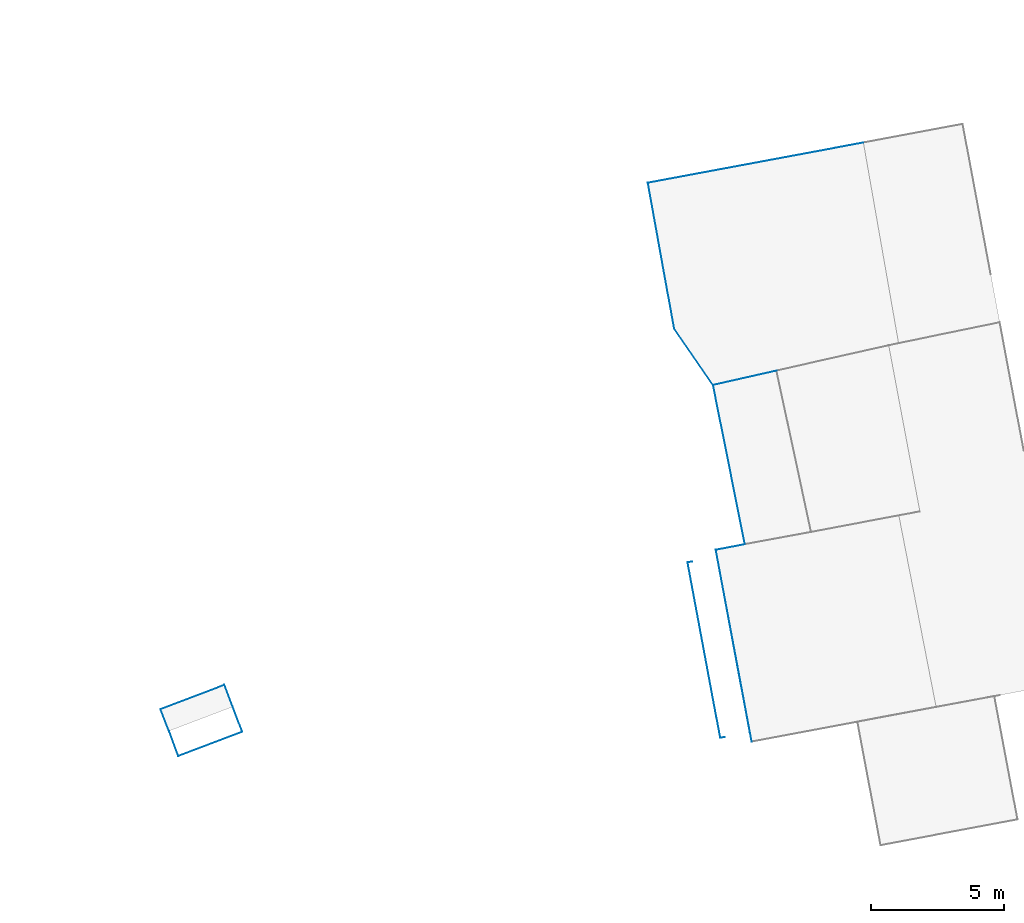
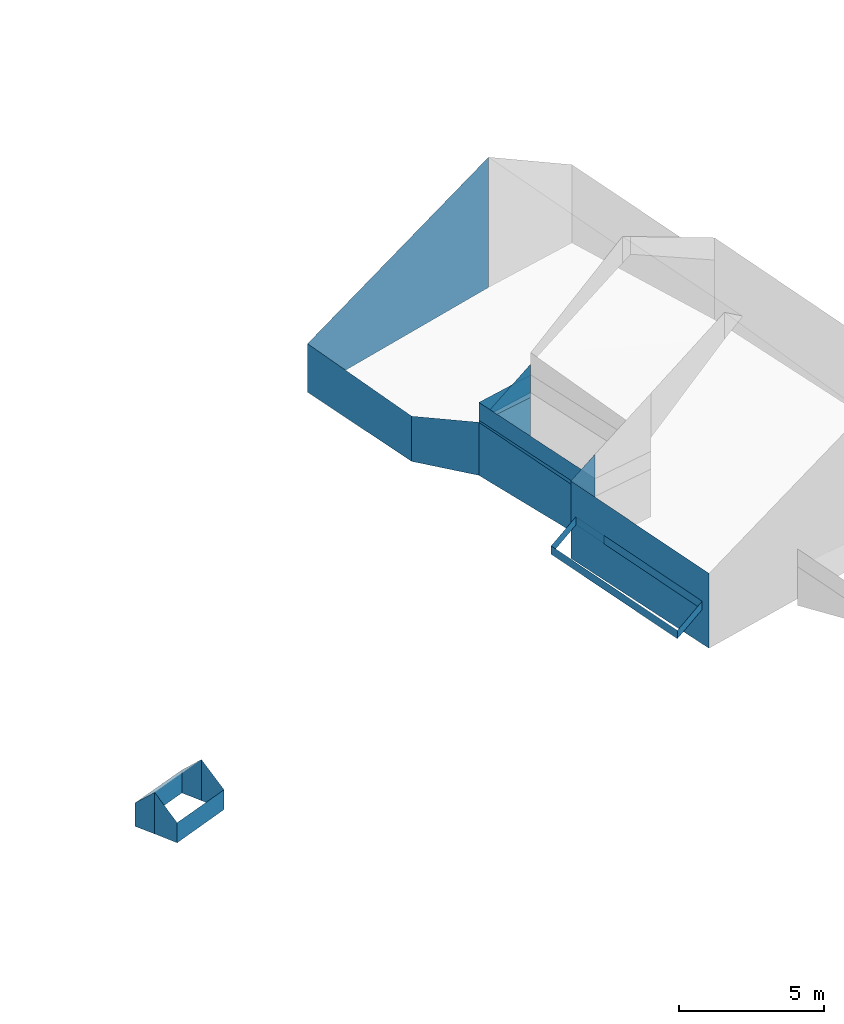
# Not in any storey, part 5 of 59: 27 walls.
"""IFC4 building model written with IfcOpenShell, lengths in metres."""

from ifc_helpers import new_model, entity, si_unit, converted_unit, frame, origin, place, context, subcontext, project, spatial, face_set, surface_model, element, save


model = new_model("IFC4")

# Units and contexts
model_context = context("Model", 3, precision=1e-05, world=origin())
body_context = subcontext(model_context, "Body", "Model", "MODEL_VIEW")
ifc_project = project(units=[converted_unit("PLANEANGLEUNIT", "DEGREE", entity("IfcRatioMeasure", 0.0174532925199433), si_unit("PLANEANGLEUNIT", "RADIAN"), dimensions=[0, 0, 0, 0, 0, 0, 0]), si_unit("AREAUNIT", "SQUARE_METRE"), si_unit("LENGTHUNIT", "METRE")], contexts=[model_context])

# Site, building
site_placement = place(None, origin())
site = spatial("IfcSite", under=ifc_project, at=site_placement, Name="_site")
building_1_placement = place(site_placement, origin())
building_1 = spatial("IfcBuilding", under=site, at=building_1_placement, Name="_building")

# Walls
wall_1_placement = place(building_1_placement, origin())
element("IfcWall", 1, at=wall_1_placement, inside=building_1, Name="Wall", PredefinedType="NOTDEFINED", context=body_context, shape_type="SurfaceModel", body=[
    surface_model("IfcFaceBasedSurfaceModel", [(155.03, 29.381, 220.29), (155.39, 28.439, 219.46), (155.39, 28.439, 218.627), (155.03, 29.381, 218.555)], [face_set([[[0, 1, 2, 3]]])]),
])
wall_2_placement = place(building_1_placement, origin())
element("IfcWall", 2, at=wall_2_placement, inside=building_1, Name="Wall", PredefinedType="NOTDEFINED", context=body_context, shape_type="SurfaceModel", body=[
    surface_model("IfcFaceBasedSurfaceModel", [(152.99, 27.529, 219.46), (152.64, 28.471, 220.29), (152.64, 28.471, 218.54), (152.99, 27.529, 218.612)], [face_set([[[0, 1, 2, 3]]])]),
])
wall_3_placement = place(building_1_placement, origin())
element("IfcWall", 3, at=wall_3_placement, inside=building_1, Name="Wall", PredefinedType="NOTDEFINED", context=body_context, shape_type="SurfaceModel", body=[
    surface_model("IfcFaceBasedSurfaceModel", [(154.72, 30.199, 219.46), (155.03, 29.381, 220.29), (155.03, 29.381, 218.555), (154.72, 30.199, 218.493)], [face_set([[[0, 1, 2, 3]]])]),
])
wall_4_placement = place(building_1_placement, origin())
element("IfcWall", 4, at=wall_4_placement, inside=building_1, Name="Wall", PredefinedType="NOTDEFINED", context=body_context, shape_type="SurfaceModel", body=[
    surface_model("IfcFaceBasedSurfaceModel", [(152.64, 28.471, 220.29), (152.32, 29.289, 219.46), (152.32, 29.289, 218.477), (152.64, 28.471, 218.54)], [face_set([[[0, 1, 2, 3]]])]),
])
wall_5_placement = place(building_1_placement, origin())
element("IfcWall", 5, at=wall_5_placement, inside=building_1, Name="Wall", PredefinedType="NOTDEFINED", context=body_context, shape_type="SurfaceModel", body=[
    surface_model("IfcFaceBasedSurfaceModel", [(155.39, 28.439, 219.46), (152.99, 27.529, 219.46), (152.99, 27.529, 218.612), (155.39, 28.439, 218.627)], [face_set([[[0, 1, 2, 3]]])]),
])
wall_6_placement = place(building_1_placement, origin())
element("IfcWall", 6, at=wall_6_placement, inside=building_1, Name="Wall", PredefinedType="NOTDEFINED", context=body_context, shape_type="SurfaceModel", body=[
    surface_model("IfcFaceBasedSurfaceModel", [(152.32, 29.289, 219.46), (154.72, 30.199, 219.46), (154.72, 30.199, 218.493), (152.32, 29.289, 218.477)], [face_set([[[0, 1, 2, 3]]])]),
])

# Building
building_2_placement = place(site_placement, origin())
building_2 = spatial("IfcBuilding", under=site, at=building_2_placement, Name="_building")

# Walls
wall_7_placement = place(building_2_placement, origin())
element("IfcWall", 7, at=wall_7_placement, inside=building_2, Name="Wall", PredefinedType="NOTDEFINED", context=body_context, shape_type="SurfaceModel", body=[
    surface_model("IfcFaceBasedSurfaceModel", [(172.11, 34.801, 220.03), (173.22, 35.01, 220.75), (173.22, 35.01, 220.4), (172.11, 34.801, 219.68)], [face_set([[[0, 1, 2, 3]]])]),
])
wall_8_placement = place(building_2_placement, origin())
element("IfcWall", 8, at=wall_8_placement, inside=building_2, Name="Wall", PredefinedType="NOTDEFINED", context=body_context, shape_type="SurfaceModel", body=[
    surface_model("IfcFaceBasedSurfaceModel", [(174.45, 28.42, 220.75), (173.34, 28.211, 220.03), (173.34, 28.211, 219.68), (174.45, 28.42, 220.4)], [face_set([[[0, 1, 2, 3]]])]),
])
wall_9_placement = place(building_2_placement, origin())
element("IfcWall", 9, at=wall_9_placement, inside=building_2, Name="Wall", PredefinedType="NOTDEFINED", context=body_context, shape_type="SurfaceModel", body=[
    surface_model("IfcFaceBasedSurfaceModel", [(172.11, 34.801, 220.03), (173.22, 35.01, 220.75), (173.22, 35.01, 220.4), (172.11, 34.801, 219.68)], [face_set([[[0, 1, 2, 3]]])]),
])
wall_10_placement = place(building_2_placement, origin())
element("IfcWall", 10, at=wall_10_placement, inside=building_2, Name="Wall", PredefinedType="NOTDEFINED", context=body_context, shape_type="SurfaceModel", body=[
    surface_model("IfcFaceBasedSurfaceModel", [(174.45, 28.42, 220.75), (173.34, 28.211, 220.03), (173.34, 28.211, 219.68), (174.45, 28.42, 220.4)], [face_set([[[0, 1, 2, 3]]])]),
])
for number, where, name in (
    (11, (0.0, 0.0, 0.0), "Wall"),
    (12, (0.0, 0.0, 0.0), "Wall"),
):
    element("IfcWall", number, at=place(building_2_placement, frame(where)), inside=building_2, Name=name, PredefinedType="NOTDEFINED", context=body_context, shape_type="SurfaceModel", body=[
        surface_model("IfcFaceBasedSurfaceModel", [(173.34, 28.211, 220.03), (172.11, 34.801, 220.03), (172.11, 34.801, 219.68), (173.34, 28.211, 219.68)], [face_set([[[0, 1, 2, 3]]])]),
    ])

# Building
building_3_placement = place(site_placement, origin())
building_3 = spatial("IfcBuilding", under=site, at=building_3_placement, Name="_building")

# Walls
wall_11_placement = place(building_3_placement, origin())
element("IfcWall", 13, at=wall_11_placement, inside=building_3, Name="Wall", PredefinedType="NOTDEFINED", context=body_context, shape_type="SurfaceModel", body=[
    surface_model("IfcFaceBasedSurfaceModel", [(170.62, 49.051, 220.44), (178.71, 50.561, 224.56), (178.71, 50.561, 219.061), (170.62, 49.051, 218.391)], [face_set([[[0, 1, 2, 3]]])]),
])
wall_12_placement = place(building_3_placement, origin())
element("IfcWall", 14, at=wall_12_placement, inside=building_3, Name="Wall", PredefinedType="NOTDEFINED", context=body_context, shape_type="SurfaceModel", body=[
    surface_model("IfcFaceBasedSurfaceModel", [(175.45, 42.0, 222.17), (173.07, 41.461, 220.87), (173.07, 41.461, 220.82), (175.45, 42.0, 220.76)], [face_set([[[0, 1, 2, 3]]])]),
])
wall_13_placement = place(building_3_placement, origin())
element("IfcWall", 15, at=wall_13_placement, inside=building_3, Name="Wall", PredefinedType="NOTDEFINED", context=body_context, shape_type="SurfaceModel", body=[
    surface_model("IfcFaceBasedSurfaceModel", [(173.07, 41.461, 220.96), (175.45, 42.0, 220.96), (175.45, 42.0, 221.71), (173.07, 41.461, 221.71)], [face_set([[[0, 1, 2, 3]]])]),
])
wall_14_placement = place(building_3_placement, origin())
element("IfcWall", 16, at=wall_14_placement, inside=building_3, Name="Wall", PredefinedType="NOTDEFINED", context=body_context, shape_type="SurfaceModel", body=[
    surface_model("IfcFaceBasedSurfaceModel", [(174.26, 35.48, 220.96), (173.07, 41.461, 220.96), (173.07, 41.461, 221.71), (174.26, 35.48, 221.71)], [face_set([[[0, 1, 2, 3]]])]),
])
wall_15_placement = place(building_3_placement, origin())
element("IfcWall", 17, at=wall_15_placement, inside=building_3, Name="Wall", PredefinedType="NOTDEFINED", context=body_context, shape_type="SurfaceModel", body=[
    surface_model("IfcFaceBasedSurfaceModel", [(173.07, 41.461, 220.96), (175.45, 42.0, 220.96), (175.45, 42.0, 221.71), (173.07, 41.461, 221.71)], [face_set([[[0, 1, 2, 3]]])]),
])
wall_16_placement = place(building_3_placement, origin())
element("IfcWall", 18, at=wall_16_placement, inside=building_3, Name="Wall", PredefinedType="NOTDEFINED", context=body_context, shape_type="SurfaceModel", body=[
    surface_model("IfcFaceBasedSurfaceModel", [(174.26, 35.48, 220.96), (173.07, 41.461, 220.96), (173.07, 41.461, 221.71), (174.26, 35.48, 221.71)], [face_set([[[0, 1, 2, 3]]])]),
])
wall_17_placement = place(building_3_placement, origin())
element("IfcWall", 19, at=wall_17_placement, inside=building_3, Name="Wall", PredefinedType="NOTDEFINED", context=body_context, shape_type="SurfaceModel", body=[
    surface_model("IfcFaceBasedSurfaceModel", [(173.17, 35.27, 222.11), (174.26, 35.48, 222.74), (174.26, 35.48, 218.877), (173.17, 35.27, 218.847)], [face_set([[[0, 1, 2, 3]]])]),
])
for number, where, name in (
    (20, (0.0, 0.0, 0.0), "Wall"),
    (21, (0.0, 0.0, 0.0), "Wall"),
):
    element("IfcWall", number, at=place(building_3_placement, frame(where)), inside=building_3, Name=name, PredefinedType="NOTDEFINED", context=body_context, shape_type="SurfaceModel", body=[
        surface_model("IfcFaceBasedSurfaceModel", [(173.22, 35.01, 220.75), (174.45, 28.42, 220.75), (174.45, 28.42, 220.4), (173.22, 35.01, 220.4)], [face_set([[[0, 1, 2, 3]]])]),
    ])
wall_18_placement = place(building_3_placement, origin())
element("IfcWall", 22, at=wall_18_placement, inside=building_3, Name="Wall", PredefinedType="NOTDEFINED", context=body_context, shape_type="SurfaceModel", body=[
    surface_model("IfcFaceBasedSurfaceModel", [(174.52, 28.07, 222.11), (173.17, 35.27, 222.11), (173.17, 35.27, 218.847), (174.52, 28.07, 218.951)], [face_set([[[0, 1, 2, 3]]])]),
])
wall_19_placement = place(building_3_placement, origin())
element("IfcWall", 23, at=wall_19_placement, inside=building_3, Name="Wall", PredefinedType="NOTDEFINED", context=body_context, shape_type="SurfaceModel", body=[
    surface_model("IfcFaceBasedSurfaceModel", [(173.07, 41.461, 220.96), (175.45, 42.0, 220.96), (175.45, 42.0, 218.797), (173.07, 41.461, 218.632)], [face_set([[[0, 1, 2, 3]]])]),
])
wall_20_placement = place(building_3_placement, origin())
element("IfcWall", 24, at=wall_20_placement, inside=building_3, Name="Wall", PredefinedType="NOTDEFINED", context=body_context, shape_type="SurfaceModel", body=[
    surface_model("IfcFaceBasedSurfaceModel", [(174.26, 35.48, 220.96), (173.07, 41.461, 220.96), (173.07, 41.461, 218.632), (174.26, 35.48, 218.877)], [face_set([[[0, 1, 2, 3]]])]),
])
wall_21_placement = place(building_3_placement, origin())
element("IfcWall", 25, at=wall_21_placement, inside=building_3, Name="Wall", PredefinedType="NOTDEFINED", context=body_context, shape_type="SurfaceModel", body=[
    surface_model("IfcFaceBasedSurfaceModel", [(174.26, 35.48, 220.78), (173.07, 41.461, 220.87), (173.07, 41.461, 218.632), (174.26, 35.48, 218.877)], [face_set([[[0, 1, 2, 3]]])]),
])
wall_22_placement = place(building_3_placement, origin())
element("IfcWall", 26, at=wall_22_placement, inside=building_3, Name="Wall", PredefinedType="NOTDEFINED", context=body_context, shape_type="SurfaceModel", body=[
    surface_model("IfcFaceBasedSurfaceModel", [(173.07, 41.461, 220.87), (171.61, 43.57, 220.36), (171.61, 43.57, 218.452), (173.07, 41.461, 218.632)], [face_set([[[0, 1, 2, 3]]])]),
])
wall_23_placement = place(building_3_placement, origin())
element("IfcWall", 27, at=wall_23_placement, inside=building_3, Name="Wall", PredefinedType="NOTDEFINED", context=body_context, shape_type="SurfaceModel", body=[
    surface_model("IfcFaceBasedSurfaceModel", [(171.61, 43.57, 220.36), (170.62, 49.051, 220.44), (170.62, 49.051, 218.391), (171.61, 43.57, 218.452)], [face_set([[[0, 1, 2, 3]]])]),
])

save(model, "model.ifc")
